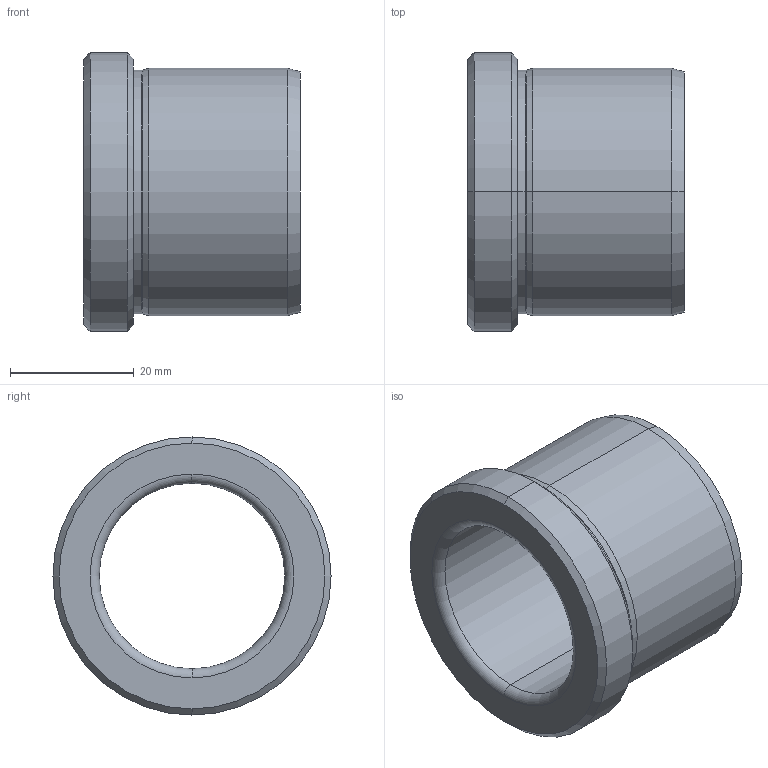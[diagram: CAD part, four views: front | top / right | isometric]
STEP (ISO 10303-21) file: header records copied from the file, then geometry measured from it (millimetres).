
FILE_DESCRIPTION (( 'STEP AP214' ), '1' );
FILE_NAME ('BRCVBG-30x35.STEP', '2020-07-21T12:32:16', ( '' ), ( '' ), 'SwSTEP 2.0', 'SolidWorks 2018', '' );
FILE_SCHEMA (( 'AUTOMOTIVE_DESIGN' ));
Length unit declared in the file: millimetre
Products named in the file (1): BRCVBG-30x35
Bounding box: 35 x 45 x 45 mm (x, y, z)
Volume: 21587.5 mm3; surface area: 9339.3 mm2
Topology: 1 solids, 1 shells, 23 faces, 46 edges, 26 vertices
Faces by surface type: cone 8, cylinder 8, torus 4, plane 3
Entity records: 636 total; most frequent: DIRECTION 124, CARTESIAN_POINT 96, ORIENTED_EDGE 92, AXIS2_PLACEMENT_3D 54, EDGE_CURVE 46, CIRCLE 30, EDGE_LOOP 26, VERTEX_POINT 26
